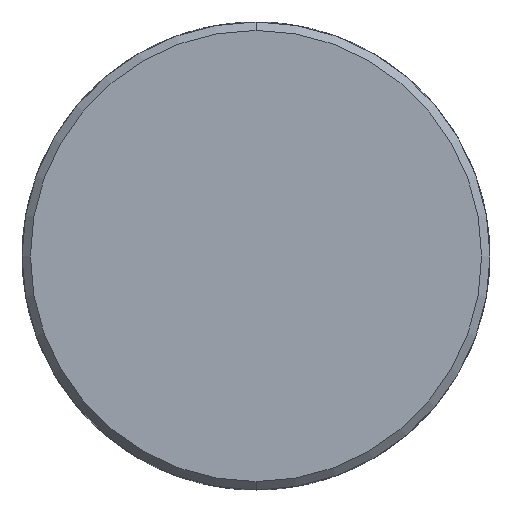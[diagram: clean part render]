
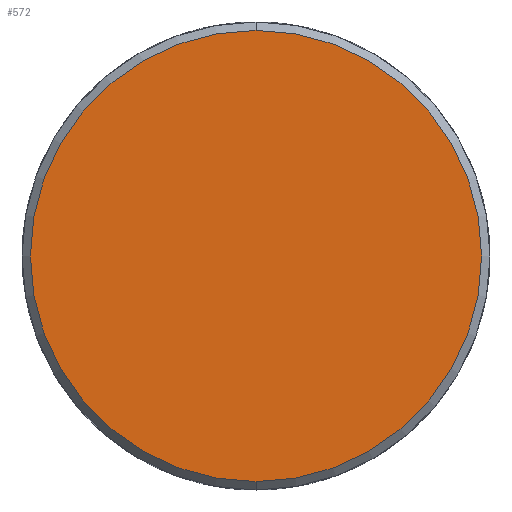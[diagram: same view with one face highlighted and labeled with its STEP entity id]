
A CAD part, front view. The second image highlights one B-rep face of the part: STEP entity #572.
In plain terms, the highlighted planar face has unit normal (0, -1, 0).
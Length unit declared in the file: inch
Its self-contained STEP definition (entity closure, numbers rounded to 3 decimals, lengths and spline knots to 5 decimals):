
#572 = ADVANCED_FACE ( 'NONE', ( #1963 ), #1961, .F. ) ;
#573 = EDGE_LOOP ( 'NONE', ( #574, #576 ) ) ;
#574 = ORIENTED_EDGE ( 'NONE', *, *, #575, .T. ) ;
#575 = EDGE_CURVE ( 'NONE', #996, #931, #1955, .T. ) ;
#576 = ORIENTED_EDGE ( 'NONE', *, *, #997, .T. ) ;
#931 = VERTEX_POINT ( 'NONE', #2398 ) ;
#996 = VERTEX_POINT ( 'NONE', #2533 ) ;
#997 = EDGE_CURVE ( 'NONE', #931, #996, #2532, .T. ) ;
#1951 = DIRECTION ( 'NONE',  ( 0., 0., 1. ) ) ;
#1952 = DIRECTION ( 'NONE',  ( 0., 1., 0. ) ) ;
#1953 = CARTESIAN_POINT ( 'NONE',  ( 0., 0., 0. ) ) ;
#1954 = AXIS2_PLACEMENT_3D ( 'NONE', #1953, #1952, #1951 ) ;
#1955 = CIRCLE ( 'NONE', #1995, 1.663 ) ;
#1956 = CARTESIAN_POINT ( 'NONE',  ( 0., 0., 0. ) ) ;
#1961 = PLANE ( 'NONE',  #1954 ) ;
#1963 = FACE_OUTER_BOUND ( 'NONE', #573, .T. ) ;
#1993 = DIRECTION ( 'NONE',  ( 0., 0., 1. ) ) ;
#1994 = DIRECTION ( 'NONE',  ( 0., -1., 0. ) ) ;
#1995 = AXIS2_PLACEMENT_3D ( 'NONE', #1956, #1994, #1993 ) ;
#2398 = CARTESIAN_POINT ( 'NONE',  ( 0., 0., -1.663 ) ) ;
#2528 = DIRECTION ( 'NONE',  ( 0., 0., 1. ) ) ;
#2529 = DIRECTION ( 'NONE',  ( 0., -1., 0. ) ) ;
#2530 = CARTESIAN_POINT ( 'NONE',  ( 0., 0., 0. ) ) ;
#2531 = AXIS2_PLACEMENT_3D ( 'NONE', #2530, #2529, #2528 ) ;
#2532 = CIRCLE ( 'NONE', #2531, 1.663 ) ;
#2533 = CARTESIAN_POINT ( 'NONE',  ( 0., 0., 1.663 ) ) ;
